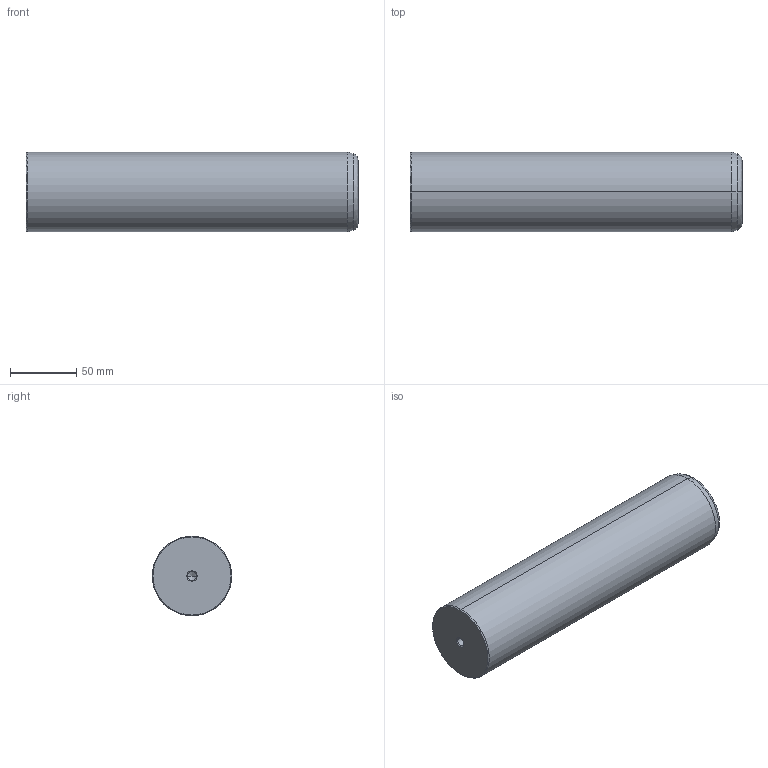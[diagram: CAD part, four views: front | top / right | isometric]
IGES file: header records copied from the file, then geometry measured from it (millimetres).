
Start section: START RECORD GO HERE.
Global section: file name: 720-60x250.igs; native system: DASSAULT SYSTEMES CATIA V5 R20 - www.3ds.com; preprocessor: CATIA Version 5 Release 20 ; author: Utente; organization: NB04-ASUS; date: 20201230.223549; units: millimetre
Bounding box: 250 x 60 x 60 mm (x, y, z)
Surface area: 53099 mm2 (no closed solid volume)
Topology: 0 solids, 0 shells, 22 faces, 108 edges, 104 vertices
Faces by surface type: revolution 20, plane 2
